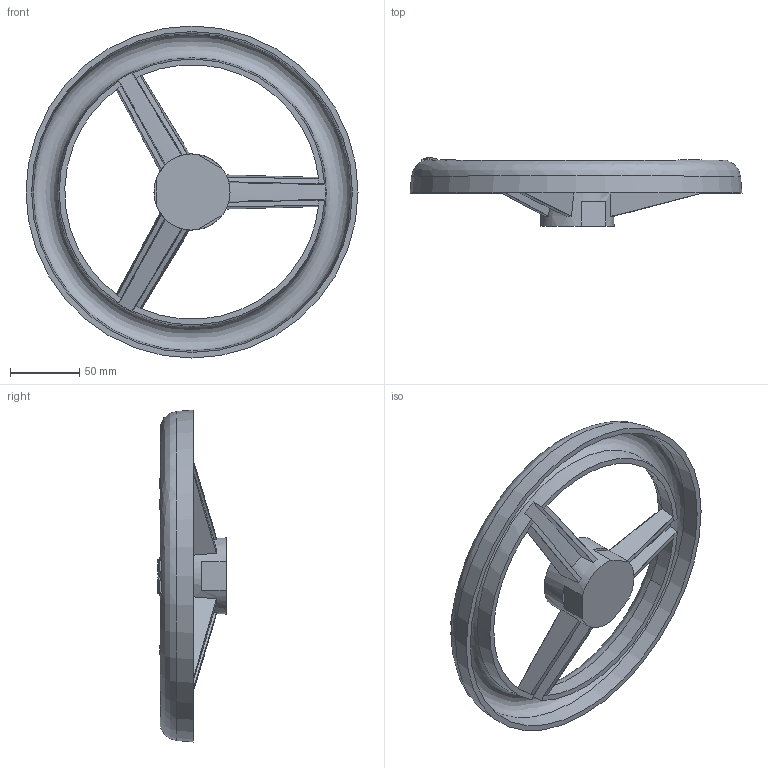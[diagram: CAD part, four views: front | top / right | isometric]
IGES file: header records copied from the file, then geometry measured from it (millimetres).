
Start section: SolidWorks IGES file using analytic representation for surfaces
Global section: file name: \\avksan2\techshare\PBM outline export from Enovia\O_08_66_DN150_AA0.igs; native system: SolidWorks 2012; preprocessor: SolidWorks 2012; author: pbm; date: 180717.125045; units: millimetre
Bounding box: 240 x 49.5 x 240 mm (x, y, z)
Surface area: 109094.1 mm2 (no closed solid volume)
Topology: 0 solids, 0 shells, 147 faces, 1140 edges, 1133 vertices
Faces by surface type: bspline 106, revolution 41
